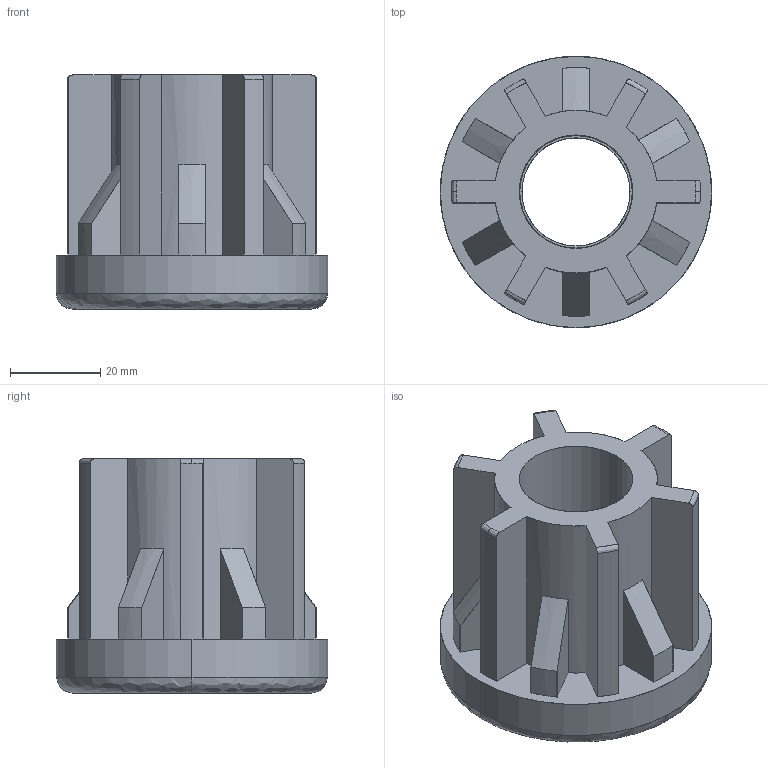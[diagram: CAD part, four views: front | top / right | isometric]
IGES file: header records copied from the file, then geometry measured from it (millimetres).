
Start section: SolidWorks IGES file using analytic representation for surfaces
Global section: file name: Y:\Tecnodin, S.L\PLAPP-Dirección - Documentos\General\Models CAD\Actiby\42006460424.IGS; native system: SolidWorks 2018; preprocessor: SolidWorks 2018; author: GerPro; date: 200225.183622; units: millimetre
Bounding box: 60.3 x 60.3 x 52 mm (x, y, z)
Surface area: 25484.6 mm2 (no closed solid volume)
Topology: 0 solids, 0 shells, 108 faces, 1394 edges, 1394 vertices
Faces by surface type: bspline 56, revolution 52
